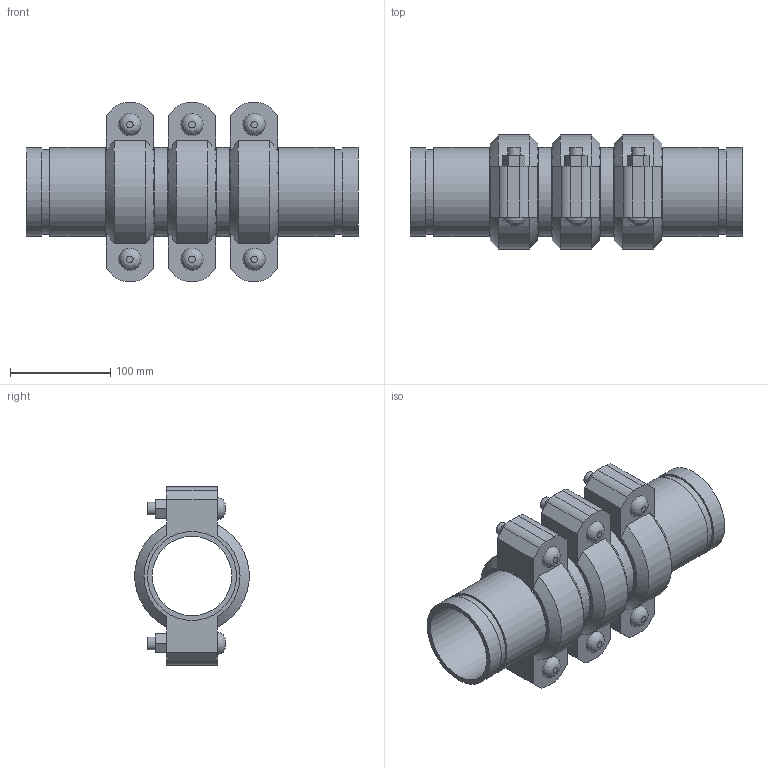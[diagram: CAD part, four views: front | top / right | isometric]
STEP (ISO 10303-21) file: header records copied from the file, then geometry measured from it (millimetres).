
FILE_DESCRIPTION(/* description */ ('VIC SS EXPANSION JOINT 3 COUPLINGS EXPANDED STYLE 155P (OGS) (POTABLE WATER) ','CAx-IF Rec.Pracs.---Representation and Presentation of Product Manufacturing Information (PMI)---4.0---2014-10-13'),/* implementation_level */ '2;1');
FILE_NAME(/* name */ 'C:\Users\kkamble\AppData\Roaming\Autodesk\ApplicationPlugins\Victaulic.Temp\A522\Victaulic_SS_Expansion Joint_Expanded_3 Couplings_Style 155P (OGS)-Potable Water_3 Coup_Expd_3 (80).stp',/* time_stamp */ '2021-07-16T16:50:07+05:00',/* author */ ('kkamble'),/* organization */ ('Victaulic'),/* preprocessor_version */ 'ST-DEVELOPER v17.2',/* originating_system */ 'Autodesk Inventor 2019',/* authorisation */ '');
FILE_SCHEMA (('AP242_MANAGED_MODEL_BASED_3D_ENGINEERING_MIM_LF { 1 0 10303 442 1 1 4 }'));
Length unit declared in the file: inch
Products named in the file (4): 155P-03.0; Nipple-03.0; Nipple-03.0_1; 075-03.0
Assembly tree (7 placements, depth 2):
  155P-03.0
    Nipple-03.0  x2
    Nipple-03.0_1  x2
    075-03.0  x3
Bounding box: 331.47 x 113.88 x 177.8 mm (x, y, z)
Volume: 1378724.2 mm3; surface area: 373813.5 mm2
Topology: 7 solids, 13 shells, 219 faces, 519 edges, 366 vertices
Faces by surface type: plane 132, cylinder 69, cone 12, bspline 6
Full cylindrical faces by diameter (mm): 12.7 x12, 14.605 x6, 79.35 x4, 82.55 x3, 84.938 x8, 88.9 x18
Entity records: 2760 total; most frequent: CARTESIAN_POINT 491, DIRECTION 457, ORIENTED_EDGE 386, EDGE_CURVE 193, AXIS2_PLACEMENT_3D 182, VERTEX_POINT 138, EDGE_LOOP 107, LINE 93
